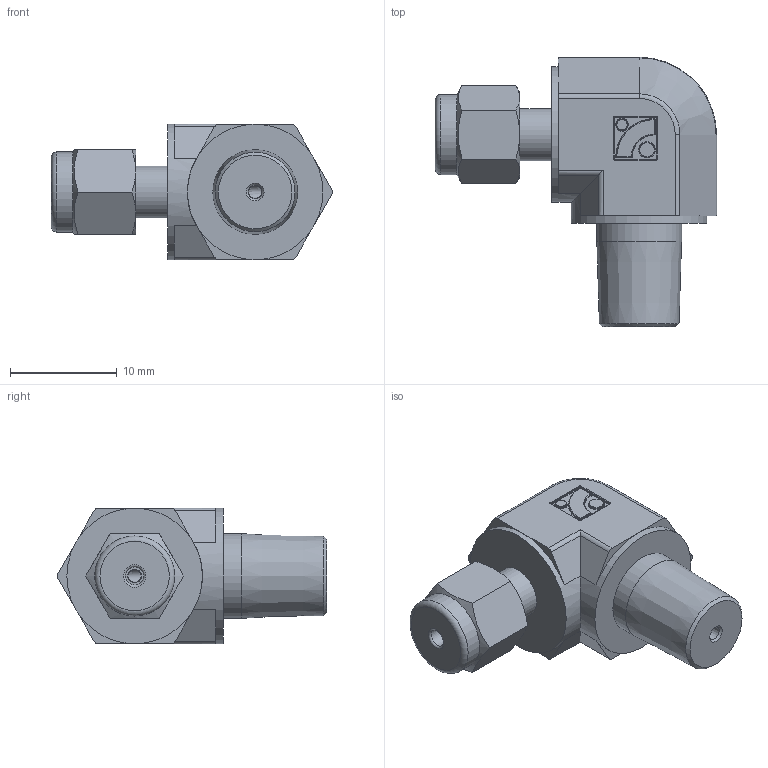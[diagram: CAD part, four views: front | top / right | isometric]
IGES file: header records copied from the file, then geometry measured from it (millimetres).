
Global section: file name: No Iges File Name specified; native system: Autodesk Inventor 2012; preprocessor: AutoDesk Inventor Iges Exporter R2012; author: 硅己绕,,1; organization: 1; date: 20150702.173655; units: millimetre
Bounding box: 26.35 x 25.25 x 12.7 mm (x, y, z)
Volume: 3057.3 mm3; surface area: 1656 mm2
Topology: 1 solids, 1 shells, 125 faces, 273 edges, 155 vertices
Faces by surface type: plane 42, cylinder 28, revolution 27, torus 13, cone 11, sphere 4
Full cylindrical faces by diameter (mm): 1.08 x1, 1.44 x1, 4.861 x1, 7.5 x1, 7.94 x1, 12.7 x2
